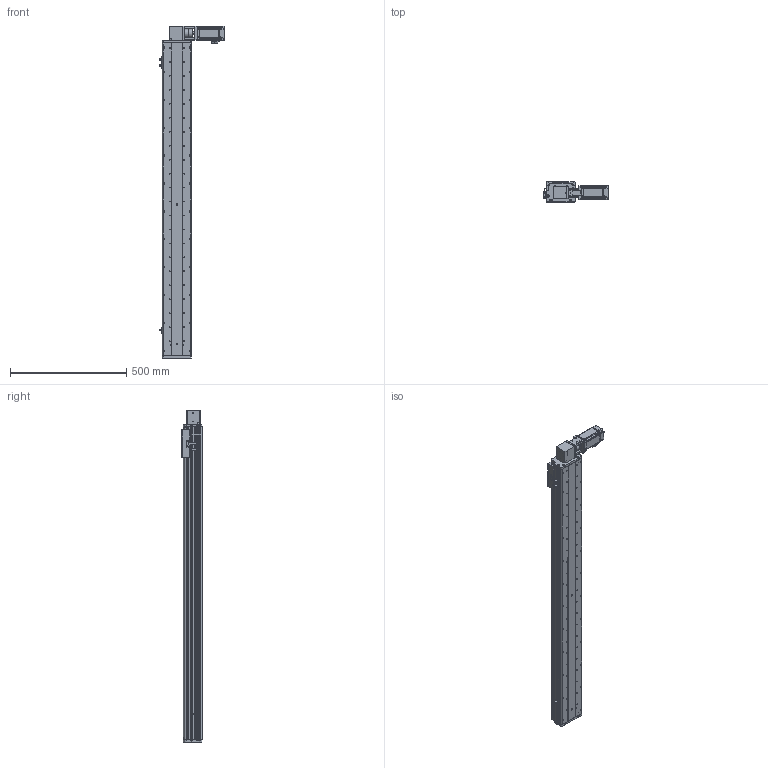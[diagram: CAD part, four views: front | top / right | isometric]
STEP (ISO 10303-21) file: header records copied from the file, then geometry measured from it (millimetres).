
FILE_DESCRIPTION (( 'STEP AP214' ), '1' );
FILE_NAME ('KSD125B-S1150-MRT-CM.STEP', '2017-10-21T07:06:34', ( '微软用户' ), ( '微软中国' ), 'SwSTEP 2.0', 'SolidWorks 2014', '' );
FILE_SCHEMA (( 'AUTOMOTIVE_DESIGN' ));
Length unit declared in the file: millimetre
Products named in the file (16): KSD125模组同步带-滑动座1; 100宽马达安装板同步带左; 125模组同步带-尾端板1; KSD125模组1150行程同步带-防尘盖; 125模组1150行程同步带-底板; MHMD042G1CA_2_03; KSD125模组同步带-防撞垫2; CS-34X32-10X14; 100遵鎮湛假蚾啣1 ; 覜茼え68遵圉猾敕; U倰嫖萇假蚾璃; U倰嫖萇EEㄜSX672; KSD125B-S1150-MRT-CM; KSD125模组同步带-防撞垫1; 100宽安装板同步带带电机座400W,86; 前端板-125宽模组同步带
Assembly tree (19 placements, depth 2):
  KSD125B-S1150-MRT-CM
    KSD125模组同步带-滑动座1
    125模组同步带-尾端板1
    前端板-125宽模组同步带
    100宽安装板同步带带电机座400W,86
    KSD125模组同步带-防撞垫1
    U倰嫖萇EEㄜSX672  x3
    U倰嫖萇假蚾璃  x3
    覜茼え68遵圉猾敕
    100遵鎮湛假蚾啣1 
    CS-34X32-10X14
    KSD125模组同步带-防撞垫2
    MHMD042G1CA_2_03
    125模组1150行程同步带-底板
    KSD125模组1150行程同步带-防尘盖
    100宽马达安装板同步带左
Bounding box: 282.7 x 86 x 1427 mm (x, y, z)
Volume: 4308040.7 mm3; surface area: 1415037.5 mm2
Topology: 18 solids, 21 shells, 1746 faces, 5014 edges, 3308 vertices
Faces by surface type: cylinder 933, plane 710, cone 81, bspline 22
Entity records: 61734 total; most frequent: CARTESIAN_POINT 12452, DIRECTION 9049, ORIENTED_EDGE 8548, EDGE_CURVE 4352, AXIS2_PLACEMENT_3D 3381, VERTEX_POINT 2900, LINE 2287, VECTOR 2287
